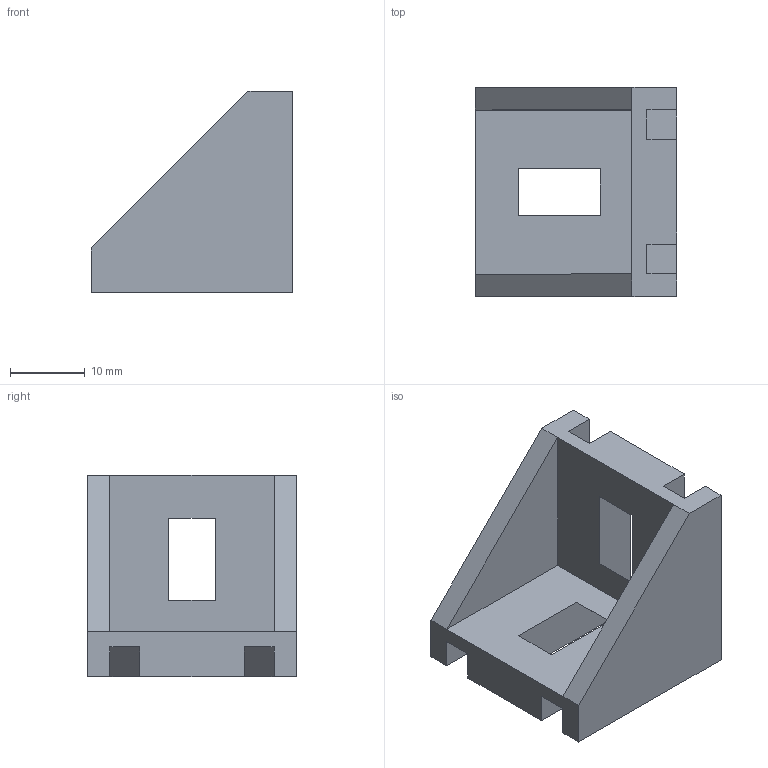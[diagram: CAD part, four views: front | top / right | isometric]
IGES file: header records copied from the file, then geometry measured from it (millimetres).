
Global section: file name: C:\Documents and Settings\Administrator\Desktop\Transfer Temp\boschgusset30.igs; native system: AutoDesk Inventor R2.0 ; preprocessor: AutoDesk Inventor Iges Exporter R2.0; author: No Author specified; organization: No Organization specified; date: 20020128.212232; units: millimetre
Bounding box: 27 x 28 x 27 mm (x, y, z)
Surface area: 4601.7 mm2 (no closed solid volume)
Topology: 0 solids, 0 shells, 32 faces, 172 edges, 172 vertices
Faces by surface type: bspline 32
